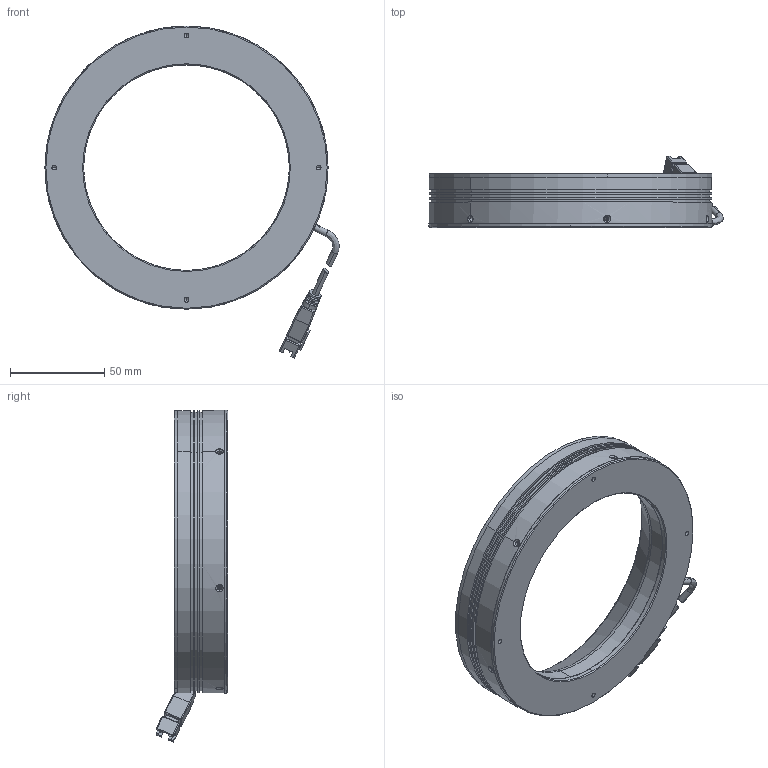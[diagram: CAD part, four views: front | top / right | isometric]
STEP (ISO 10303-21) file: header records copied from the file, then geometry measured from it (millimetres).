
FILE_DESCRIPTION (( 'STEP AP203' ), '1' );
FILE_NAME ('DFP-RL-150-30-S2-00.STEP', '2026-03-13T08:45:42', ( '' ), ( '' ), 'SwSTEP 2.0', 'SolidWorks 2022', '' );
FILE_SCHEMA (( 'CONFIG_CONTROL_DESIGN' ));
Length unit declared in the file: millimetre
Products named in the file (6): DFP-RL-150-30-S2; DFP-RL-150-30-S2-00; 15030灯珠-00; P-RL-150-30-S2-001; P-RL-150-30-S2-002; 光源线
Assembly tree (5 placements, depth 2):
  DFP-RL-150-30-S2-00
    P-RL-150-30-S2-001
    P-RL-150-30-S2-002
    DFP-RL-150-30-S2
    15030灯珠-00
    光源线
Bounding box: 155.83 x 38.06 x 175.83 mm (x, y, z)
Volume: 112565.4 mm3; surface area: 96847.5 mm2
Topology: 7 solids, 7 shells, 425 faces, 1073 edges, 638 vertices
Faces by surface type: cylinder 154, plane 140, cone 87, torus 24, bspline 20
Entity records: 14632 total; most frequent: CARTESIAN_POINT 3993, DIRECTION 2132, ORIENTED_EDGE 2058, EDGE_CURVE 1029, AXIS2_PLACEMENT_3D 809, VERTEX_POINT 638, LINE 514, VECTOR 514
